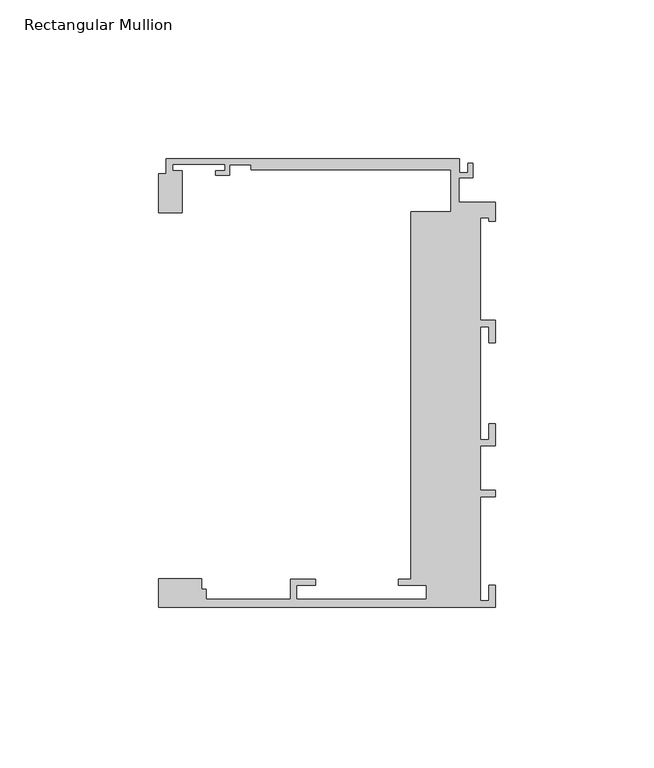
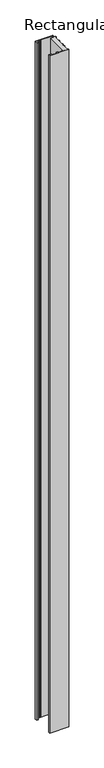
"""IFC4 building model written with IfcOpenShell, lengths in millimetres: member geometry, Rectangular Mullion : Danpal_K12_End-Mullion_B2."""

from ifc_helpers import new_model, si_unit, frame, origin, place, context, project, spatial, polyline, outline, extrude, source, transform, mapped, element, save


def rectangular_mullion_2936a97d(model_context):
    return source(origin(), model_context, "Body", "SweptSolid", [
        extrude(outline(polyline([(-26.6209612, -1.9446289), (-14.1055875, -1.9446289), (-14.1055875, 11.3051512), (-77.1531178, 11.3051512), (-77.1531178, 12.8051513), (-83.8999976, 12.8051513), (-83.8999976, 9.5051512), (-88.3999976, 9.5051512), (-88.3999976, 11.0051513), (-85.3999976, 11.0051513), (-85.3999976, 13.0051512), (-101.8999976, 13.0051512), (-101.8999976, 11.0051513), (-98.8999976, 11.0051513), (-98.8999976, -2.316674), (-106.4117426, -2.316674), (-106.4117426, 10.065304), (-103.8999976, 10.065304), (-103.8999976, 14.8051514), (-11.4019537, 14.8051514), (-11.4019537, 10.3006425), (-8.6518595, 10.3006425), (-8.6518595, 13.3051514), (-7.1518595, 13.3051514), (-7.1518595, 8.8006425), (-11.6055875, 8.8006425), (-11.6055875, 1.0551514), (0.0, 1.0551514), (0.0, -4.9448486), (-2.0, -4.9448486), (-2.0, -3.9448486), (-4.8, -3.9448486), (-4.8, -36.2443486), (0.0, -36.2443486), (0.0, -43.2443486), (-2.0, -43.2443486), (-2.0, -38.2443486), (-4.8, -38.2443486), (-4.8, -73.8676657), (-2.0, -73.8676657), (-2.0, -68.8676657), (0.0, -68.8676657), (0.0, -75.867683), (-4.8, -75.867683), (-4.8, -89.8676485), (0.0, -89.8676485), (0.0, -91.8676485), (-4.8, -91.8676485), (-4.8, -124.7676657), (-2.0, -124.7676657), (-2.0, -119.7676657), (0.0, -119.7676657), (0.0, -126.7676657), (-106.4117426, -126.7676657), (-106.4117426, -117.6986749), (-92.8228167, -117.6986749), (-92.8228167, -121.0676175), (-91.2900275, -121.0676175), (-91.2900275, -124.2676658), (-64.7350275, -124.2676658), (-64.7350275, -117.8676658), (-56.7350275, -117.8676658), (-56.7350275, -119.8676658), (-62.7350275, -119.8676658), (-62.7350275, -124.2676658), (-21.835, -124.2676658), (-21.835, -119.8676658), (-30.6, -119.8676658), (-30.6, -117.8676658), (-26.6209612, -117.8676658), (-26.6209612, -1.9446289)])), frame((0.0, 0.0, -4000.0), z_axis=(0.0, 0.0, 1.0), x_axis=(1.0, 0.0, 0.0)), (0.0, 0.0, 1.0), 4000.0),
    ])


if __name__ == "__main__":
    model = new_model("IFC4")
    model_context = context("Model", 3, world=origin())
    ifc_project = project(units=[si_unit("LENGTHUNIT", "METRE", prefix="MILLI")], contexts=[model_context])
    site = spatial("IfcSite", under=ifc_project)
    building = spatial("IfcBuilding", under=site)
    placement = place(None, origin())
    rectangular_mullion_shape = rectangular_mullion_2936a97d(model_context)
    element("IfcMember", 1, ObjectType="Rectangular Mullion : Danpal_K12_End-Mullion_B2", at=placement, inside=building, context=model_context, shape_type="MappedRepresentation", body=[
        mapped(rectangular_mullion_shape, transform((0.0, 0.0, 0.0), x_axis=(1.0, 0.0, 0.0), y_axis=(0.0, 1.0, 0.0), z_axis=(0.0, 0.0, 1.0))),
    ])
    save(model, "model.ifc")
